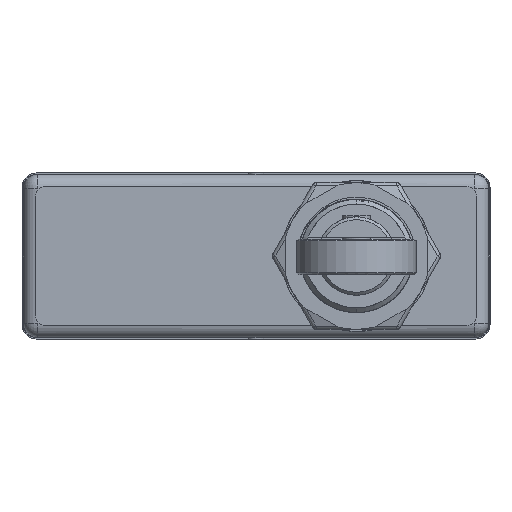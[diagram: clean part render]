
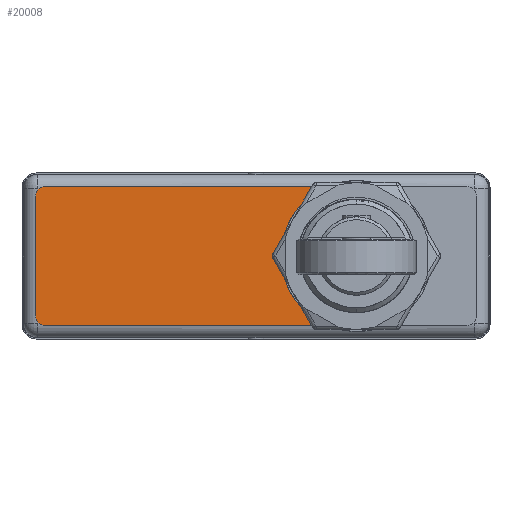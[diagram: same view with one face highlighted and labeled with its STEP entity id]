
A CAD part, front view. The second image highlights one B-rep face of the part: STEP entity #20008.
In plain terms, the highlighted planar face has unit normal (0, -1, 0).
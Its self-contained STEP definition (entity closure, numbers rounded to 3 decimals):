
#440=DIRECTION('',(-1.,0.,0.));
#441=VECTOR('',#440,29.841);
#442=CARTESIAN_POINT('',(32.291,0.504,7.35));
#443=LINE('',#442,#441);
#697=DIRECTION('',(1.,0.,0.));
#698=VECTOR('',#697,29.841);
#699=CARTESIAN_POINT('',(2.45,0.504,-7.35));
#700=LINE('',#699,#698);
#898=CARTESIAN_POINT('',(2.45,0.504,-6.35));
#899=DIRECTION('',(0.,1.,0.));
#900=DIRECTION('',(0.,0.,-1.));
#901=AXIS2_PLACEMENT_3D('',#898,#899,#900);
#903=DIRECTION('',(0.,0.,1.));
#904=VECTOR('',#903,12.7);
#905=CARTESIAN_POINT('',(1.45,0.504,-6.35));
#906=LINE('',#905,#904);
#907=CARTESIAN_POINT('',(2.45,0.504,6.35));
#908=DIRECTION('',(0.,1.,0.));
#909=DIRECTION('',(-1.,0.,0.));
#910=AXIS2_PLACEMENT_3D('',#907,#908,#909);
#912=CARTESIAN_POINT('',(35.45,0.504,
0.));
#913=DIRECTION('',(0.,-1.,0.));
#914=DIRECTION('',(-0.395,0.,0.919));
#915=AXIS2_PLACEMENT_3D('',#912,#913,#914);
#917=CARTESIAN_POINT('',(35.45,0.504,
0.));
#918=DIRECTION('',(0.,-1.,0.));
#919=DIRECTION('',(-1.,0.,0.));
#920=AXIS2_PLACEMENT_3D('',#917,#918,#919);
#18120=CARTESIAN_POINT('',(32.291,0.504,7.35));
#18121=VERTEX_POINT('',#18120);
#18128=CARTESIAN_POINT('',(27.45,0.504,
0.));
#18129=VERTEX_POINT('',#18128);
#18130=CARTESIAN_POINT('',(2.45,0.504,7.35));
#18131=VERTEX_POINT('',#18130);
#18134=CARTESIAN_POINT('',(1.45,0.504,6.35));
#18135=VERTEX_POINT('',#18134);
#18172=CARTESIAN_POINT('',(32.291,0.504,-7.35));
#18173=VERTEX_POINT('',#18172);
#18174=CARTESIAN_POINT('',(2.45,0.504,-7.35));
#18175=VERTEX_POINT('',#18174);
#18850=CARTESIAN_POINT('',(1.45,0.504,-6.35));
#18851=VERTEX_POINT('',#18850);
#19994=CARTESIAN_POINT('',(16.871,0.504,
0.));
#19995=DIRECTION('',(0.,1.,0.));
#19996=DIRECTION('',(0.,0.,-1.));
#19997=AXIS2_PLACEMENT_3D('',#19994,#19995,#19996);
#19998=PLANE('',#19997);
#19999=ORIENTED_EDGE('',*,*,#19759,.T.);
#20000=ORIENTED_EDGE('',*,*,#19741,.T.);
#20001=ORIENTED_EDGE('',*,*,#19470,.T.);
#20002=ORIENTED_EDGE('',*,*,#19455,.F.);
#20003=ORIENTED_EDGE('',*,*,#19440,.T.);
#20004=ORIENTED_EDGE('',*,*,#19416,.T.);
#20005=ORIENTED_EDGE('',*,*,#19773,.F.);
#20006=EDGE_LOOP('',(#19999,#20000,#20001,#20002,#20003,#20004,#20005));
#20007=FACE_OUTER_BOUND('',#20006,.F.);
#20008=ADVANCED_FACE('',(#20007),#19998,.F.);
#902=CIRCLE('',#901,1.);
#911=CIRCLE('',#910,1.);
#916=CIRCLE('',#915,8.);
#921=CIRCLE('',#920,8.);
#19416=EDGE_CURVE('',#18129,#18173,#921,.T.);
#19440=EDGE_CURVE('',#18121,#18129,#916,.T.);
#19455=EDGE_CURVE('',#18121,#18131,#443,.T.);
#19470=EDGE_CURVE('',#18135,#18131,#911,.T.);
#19741=EDGE_CURVE('',#18851,#18135,#906,.T.);
#19759=EDGE_CURVE('',#18175,#18851,#902,.T.);
#19773=EDGE_CURVE('',#18175,#18173,#700,.T.);
